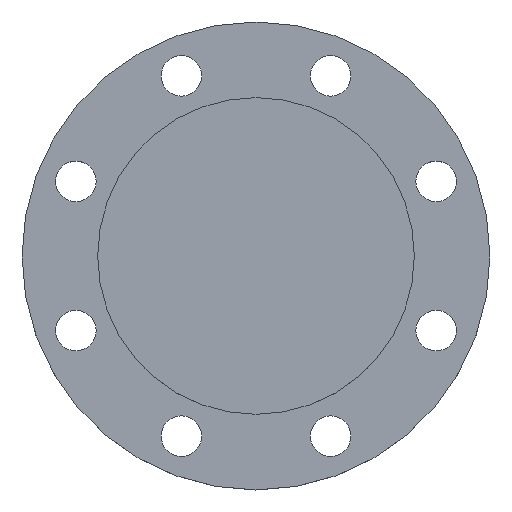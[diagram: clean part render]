
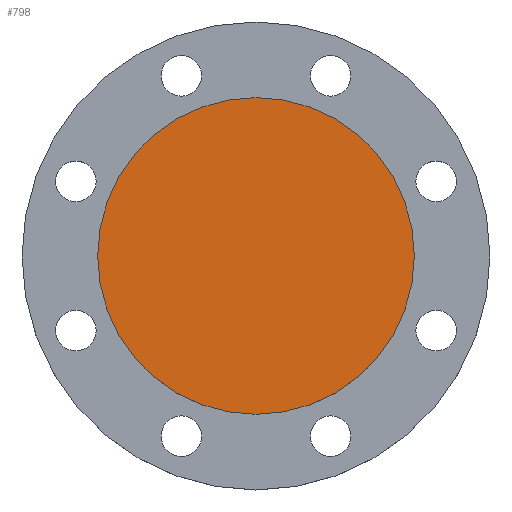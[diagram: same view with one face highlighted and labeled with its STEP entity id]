
A CAD part, top view. The second image highlights one B-rep face of the part: STEP entity #798.
In plain terms, the highlighted planar face has unit normal (0, 0, 1).
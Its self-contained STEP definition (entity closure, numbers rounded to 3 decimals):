
#45 = AXIS2_PLACEMENT_3D ( 'NONE', #272, #270, #269 ) ;
#119 = CARTESIAN_POINT ( 'NONE',  ( -101.5, 0., 0. ) ) ;
#143 = CARTESIAN_POINT ( 'NONE',  ( 101.5, 0., 0. ) ) ;
#158 = AXIS2_PLACEMENT_3D ( 'NONE', #183, #182, #181 ) ;
#181 = DIRECTION ( 'NONE',  ( 1., 0., 0. ) ) ;
#182 = DIRECTION ( 'NONE',  ( 0., 0., 1. ) ) ;
#183 = CARTESIAN_POINT ( 'NONE',  ( 0., 0., 0. ) ) ;
#186 = PLANE ( 'NONE',  #158 ) ;
#187 = FACE_OUTER_BOUND ( 'NONE', #578, .T. ) ;
#192 = DIRECTION ( 'NONE',  ( -1., 0., 0. ) ) ;
#193 = DIRECTION ( 'NONE',  ( 0., 0., -1. ) ) ;
#194 = CARTESIAN_POINT ( 'NONE',  ( 0., 0., 0. ) ) ;
#269 = DIRECTION ( 'NONE',  ( -1., 0., 0. ) ) ;
#270 = DIRECTION ( 'NONE',  ( 0., 0., -1. ) ) ;
#272 = CARTESIAN_POINT ( 'NONE',  ( 0., 0., 0. ) ) ;
#578 = EDGE_LOOP ( 'NONE', ( #965, #966 ) ) ;
#697 = CIRCLE ( 'NONE', #990, 101.5 ) ;
#712 = EDGE_CURVE ( 'NONE', #841, #869, #937, .T. ) ;
#787 = EDGE_CURVE ( 'NONE', #869, #841, #697, .T. ) ;
#798 = ADVANCED_FACE ( 'NONE', ( #187 ), #186, .T. ) ;
#841 = VERTEX_POINT ( 'NONE', #143 ) ;
#869 = VERTEX_POINT ( 'NONE', #119 ) ;
#937 = CIRCLE ( 'NONE', #45, 101.5 ) ;
#965 = ORIENTED_EDGE ( 'NONE', *, *, #787, .F. ) ;
#966 = ORIENTED_EDGE ( 'NONE', *, *, #712, .F. ) ;
#990 = AXIS2_PLACEMENT_3D ( 'NONE', #194, #193, #192 ) ;
